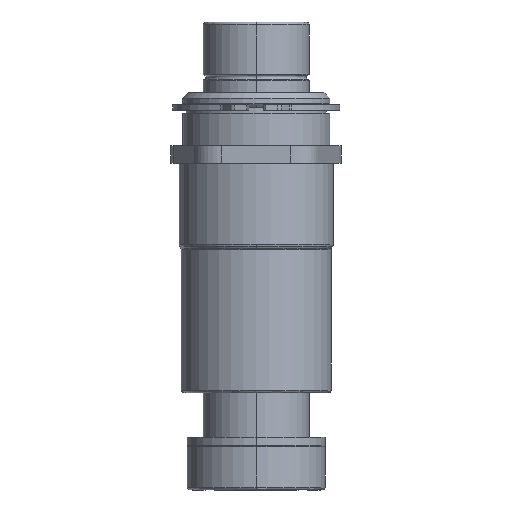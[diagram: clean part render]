
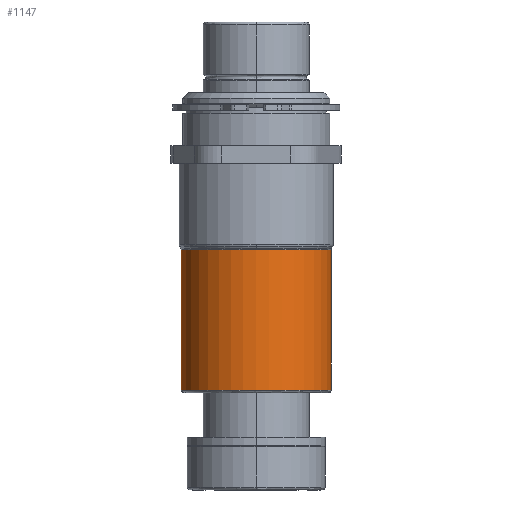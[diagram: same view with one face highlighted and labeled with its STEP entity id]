
A CAD part, left-side view. The second image highlights one B-rep face of the part: STEP entity #1147.
In plain terms, the highlighted cylindrical face has radius 26.924 mm (diameter 53.848 mm), a partial arc.
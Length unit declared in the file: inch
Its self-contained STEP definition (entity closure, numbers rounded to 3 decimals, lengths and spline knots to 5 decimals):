
#184 = DIRECTION ( 'NONE',  ( 0., -1., 0. ) ) ;
#213 = DIRECTION ( 'NONE',  ( 0., 0., 1. ) ) ;
#238 = EDGE_CURVE ( 'NONE', #3706, #676, #1828, .T. ) ;
#409 = ORIENTED_EDGE ( 'NONE', *, *, #3671, .F. ) ;
#565 = CARTESIAN_POINT ( 'NONE',  ( 0., -1.225, 0. ) ) ;
#567 = EDGE_LOOP ( 'NONE', ( #409, #4246, #1019, #2760, #4376 ) ) ;
#587 = CARTESIAN_POINT ( 'NONE',  ( 0., -3.25, 1.06 ) ) ;
#652 = CARTESIAN_POINT ( 'NONE',  ( -1.06, -1.225, 0. ) ) ;
#676 = VERTEX_POINT ( 'NONE', #3712 ) ;
#821 = DIRECTION ( 'NONE',  ( 0., 0., -1. ) ) ;
#977 = VERTEX_POINT ( 'NONE', #1658 ) ;
#1019 = ORIENTED_EDGE ( 'NONE', *, *, #238, .T. ) ;
#1147 = ADVANCED_FACE ( 'NONE', ( #2985 ), #2917, .T. ) ;
#1379 = CARTESIAN_POINT ( 'NONE',  ( 0., -1.225, 0. ) ) ;
#1478 = LINE ( 'NONE', #2338, #4868 ) ;
#1570 = CARTESIAN_POINT ( 'NONE',  ( 0., -3.21, 1.06 ) ) ;
#1600 = CARTESIAN_POINT ( 'NONE',  ( 0., -3.25, 0. ) ) ;
#1658 = CARTESIAN_POINT ( 'NONE',  ( 0., -3.21, -1.06 ) ) ;
#1828 = LINE ( 'NONE', #587, #2061 ) ;
#1845 = AXIS2_PLACEMENT_3D ( 'NONE', #1379, #2880, #213 ) ;
#2007 = DIRECTION ( 'NONE',  ( 0., 0., 1. ) ) ;
#2061 = VECTOR ( 'NONE', #2478, 39.37008 ) ;
#2152 = AXIS2_PLACEMENT_3D ( 'NONE', #1600, #4279, #2007 ) ;
#2338 = CARTESIAN_POINT ( 'NONE',  ( 0., -3.25, -1.06 ) ) ;
#2449 = VERTEX_POINT ( 'NONE', #4795 ) ;
#2478 = DIRECTION ( 'NONE',  ( 0., 1., 0. ) ) ;
#2760 = ORIENTED_EDGE ( 'NONE', *, *, #3043, .T. ) ;
#2880 = DIRECTION ( 'NONE',  ( 0., -1., 0. ) ) ;
#2895 = CIRCLE ( 'NONE', #4734, 1.06 ) ;
#2917 = CYLINDRICAL_SURFACE ( 'NONE', #2152, 1.06 ) ;
#2985 = FACE_OUTER_BOUND ( 'NONE', #567, .T. ) ;
#3028 = CIRCLE ( 'NONE', #3429, 1.06 ) ;
#3043 = EDGE_CURVE ( 'NONE', #676, #4199, #3028, .T. ) ;
#3108 = DIRECTION ( 'NONE',  ( 0., -1., 0. ) ) ;
#3278 = EDGE_CURVE ( 'NONE', #4199, #2449, #3304, .T. ) ;
#3304 = CIRCLE ( 'NONE', #1845, 1.06 ) ;
#3429 = AXIS2_PLACEMENT_3D ( 'NONE', #565, #184, #4408 ) ;
#3671 = EDGE_CURVE ( 'NONE', #977, #2449, #1478, .T. ) ;
#3706 = VERTEX_POINT ( 'NONE', #1570 ) ;
#3712 = CARTESIAN_POINT ( 'NONE',  ( 0., -1.225, 1.06 ) ) ;
#3845 = DIRECTION ( 'NONE',  ( 0., 1., 0. ) ) ;
#4199 = VERTEX_POINT ( 'NONE', #652 ) ;
#4246 = ORIENTED_EDGE ( 'NONE', *, *, #4455, .F. ) ;
#4279 = DIRECTION ( 'NONE',  ( 0., 1., 0. ) ) ;
#4376 = ORIENTED_EDGE ( 'NONE', *, *, #3278, .T. ) ;
#4408 = DIRECTION ( 'NONE',  ( 0., 0., 1. ) ) ;
#4455 = EDGE_CURVE ( 'NONE', #3706, #977, #2895, .T. ) ;
#4687 = CARTESIAN_POINT ( 'NONE',  ( 0., -3.21, 0. ) ) ;
#4734 = AXIS2_PLACEMENT_3D ( 'NONE', #4687, #3108, #821 ) ;
#4795 = CARTESIAN_POINT ( 'NONE',  ( 0., -1.225, -1.06 ) ) ;
#4868 = VECTOR ( 'NONE', #3845, 39.37008 ) ;
